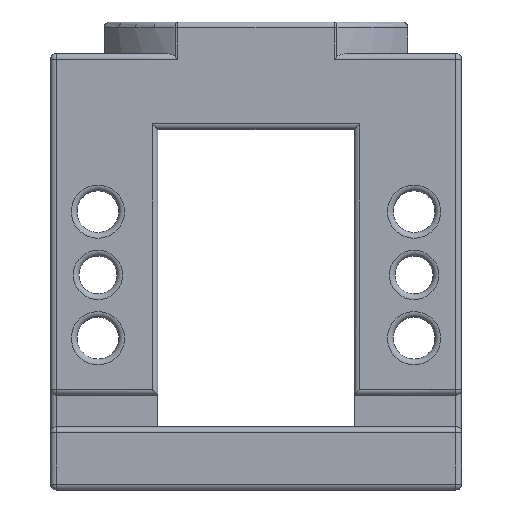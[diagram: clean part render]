
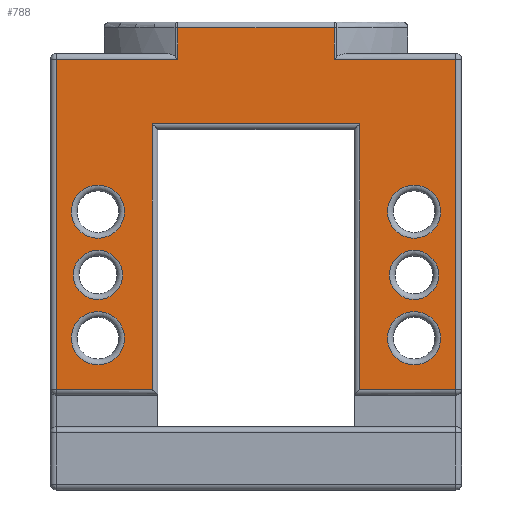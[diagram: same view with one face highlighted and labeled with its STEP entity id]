
A CAD part, front view. The second image highlights one B-rep face of the part: STEP entity #788.
In plain terms, the highlighted planar face has unit normal (0, -1, 0).
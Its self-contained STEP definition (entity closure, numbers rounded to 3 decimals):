
#564=CIRCLE('',#4937,3.9);
#565=CIRCLE('',#4939,3.9);
#567=CIRCLE('',#4942,4.2);
#569=CIRCLE('',#4945,4.2);
#571=CIRCLE('',#4948,4.2);
#573=CIRCLE('',#4951,4.2);
#788=ADVANCED_FACE('',(#1798,#1799,#1800,#1801,#1802,#1803,#1804),#1030,
 .F.);
#1030=PLANE('',#5082);
#1203=LINE('',#7555,#1458);
#1204=LINE('',#7558,#1459);
#1205=LINE('',#7560,#1460);
#1206=LINE('',#7562,#1461);
#1207=LINE('',#7564,#1462);
#1208=LINE('',#7566,#1463);
#1209=LINE('',#7568,#1464);
#1210=LINE('',#7570,#1465);
#1211=LINE('',#7572,#1466);
#1212=LINE('',#7574,#1467);
#1213=LINE('',#7576,#1468);
#1214=LINE('',#7578,#1469);
#1458=VECTOR('',#5736,1.);
#1459=VECTOR('',#5737,1.);
#1460=VECTOR('',#5738,1.);
#1461=VECTOR('',#5739,1.);
#1462=VECTOR('',#5740,1.);
#1463=VECTOR('',#5741,1.);
#1464=VECTOR('',#5742,1.);
#1465=VECTOR('',#5743,1.);
#1466=VECTOR('',#5744,1.);
#1467=VECTOR('',#5745,1.);
#1468=VECTOR('',#5746,1.);
#1469=VECTOR('',#5747,1.);
#1798=FACE_BOUND('',#1962,.T.);
#1799=FACE_BOUND('',#1963,.T.);
#1800=FACE_BOUND('',#1964,.T.);
#1801=FACE_BOUND('',#1965,.T.);
#1802=FACE_BOUND('',#1966,.T.);
#1803=FACE_BOUND('',#1967,.T.);
#1804=FACE_BOUND('',#1968,.T.);
#1962=EDGE_LOOP('',(#2544,#2545,#2546,#2547,#2548,#2549,#2550,#2551,#2552,
#2553,#2554,#2555));
#1963=EDGE_LOOP('',(#2556));
#1964=EDGE_LOOP('',(#2557));
#1965=EDGE_LOOP('',(#2558));
#1966=EDGE_LOOP('',(#2559));
#1967=EDGE_LOOP('',(#2560));
#1968=EDGE_LOOP('',(#2561));
#2544=ORIENTED_EDGE('',*,*,#4280,.T.);
#2545=ORIENTED_EDGE('',*,*,#4281,.T.);
#2546=ORIENTED_EDGE('',*,*,#4282,.T.);
#2547=ORIENTED_EDGE('',*,*,#4283,.T.);
#2548=ORIENTED_EDGE('',*,*,#4284,.T.);
#2549=ORIENTED_EDGE('',*,*,#4285,.T.);
#2550=ORIENTED_EDGE('',*,*,#4286,.T.);
#2551=ORIENTED_EDGE('',*,*,#4287,.T.);
#2552=ORIENTED_EDGE('',*,*,#4288,.T.);
#2553=ORIENTED_EDGE('',*,*,#4289,.T.);
#2554=ORIENTED_EDGE('',*,*,#4290,.T.);
#2555=ORIENTED_EDGE('',*,*,#4291,.T.);
#2556=ORIENTED_EDGE('',*,*,#4117,.T.);
#2557=ORIENTED_EDGE('',*,*,#4115,.T.);
#2558=ORIENTED_EDGE('',*,*,#4113,.T.);
#2559=ORIENTED_EDGE('',*,*,#4111,.T.);
#2560=ORIENTED_EDGE('',*,*,#4109,.T.);
#2561=ORIENTED_EDGE('',*,*,#4108,.T.);
#3662=VERTEX_POINT('',#7040);
#3663=VERTEX_POINT('',#7043);
#3665=VERTEX_POINT('',#7048);
#3667=VERTEX_POINT('',#7053);
#3669=VERTEX_POINT('',#7058);
#3671=VERTEX_POINT('',#7063);
#3829=VERTEX_POINT('',#7556);
#3830=VERTEX_POINT('',#7557);
#3831=VERTEX_POINT('',#7559);
#3832=VERTEX_POINT('',#7561);
#3833=VERTEX_POINT('',#7563);
#3834=VERTEX_POINT('',#7565);
#3835=VERTEX_POINT('',#7567);
#3836=VERTEX_POINT('',#7569);
#3837=VERTEX_POINT('',#7571);
#3838=VERTEX_POINT('',#7573);
#3839=VERTEX_POINT('',#7575);
#3840=VERTEX_POINT('',#7577);
#4108=EDGE_CURVE('',#3662,#3662,#564,.T.);
#4109=EDGE_CURVE('',#3663,#3663,#565,.T.);
#4111=EDGE_CURVE('',#3665,#3665,#567,.T.);
#4113=EDGE_CURVE('',#3667,#3667,#569,.T.);
#4115=EDGE_CURVE('',#3669,#3669,#571,.T.);
#4117=EDGE_CURVE('',#3671,#3671,#573,.T.);
#4280=EDGE_CURVE('',#3829,#3830,#1203,.T.);
#4281=EDGE_CURVE('',#3830,#3831,#1204,.T.);
#4282=EDGE_CURVE('',#3831,#3832,#1205,.T.);
#4283=EDGE_CURVE('',#3832,#3833,#1206,.T.);
#4284=EDGE_CURVE('',#3833,#3834,#1207,.T.);
#4285=EDGE_CURVE('',#3834,#3835,#1208,.T.);
#4286=EDGE_CURVE('',#3835,#3836,#1209,.T.);
#4287=EDGE_CURVE('',#3836,#3837,#1210,.T.);
#4288=EDGE_CURVE('',#3837,#3838,#1211,.T.);
#4289=EDGE_CURVE('',#3838,#3839,#1212,.T.);
#4290=EDGE_CURVE('',#3839,#3840,#1213,.T.);
#4291=EDGE_CURVE('',#3840,#3829,#1214,.T.);
#4937=AXIS2_PLACEMENT_3D('',#7039,#5376,#5377);
#4939=AXIS2_PLACEMENT_3D('',#7042,#5380,#5381);
#4942=AXIS2_PLACEMENT_3D('',#7047,#5386,#5387);
#4945=AXIS2_PLACEMENT_3D('',#7052,#5392,#5393);
#4948=AXIS2_PLACEMENT_3D('',#7057,#5398,#5399);
#4951=AXIS2_PLACEMENT_3D('',#7062,#5404,#5405);
#5082=AXIS2_PLACEMENT_3D('',#7579,#5748,#5749);
#5376=DIRECTION('',(0.,1.,0.));
#5377=DIRECTION('',(-1.,0.,0.));
#5380=DIRECTION('',(0.,1.,0.));
#5381=DIRECTION('',(-1.,0.,0.));
#5386=DIRECTION('',(0.,1.,0.));
#5387=DIRECTION('',(-1.,0.,0.));
#5392=DIRECTION('',(0.,1.,0.));
#5393=DIRECTION('',(-1.,0.,0.));
#5398=DIRECTION('',(0.,1.,0.));
#5399=DIRECTION('',(-1.,0.,0.));
#5404=DIRECTION('',(0.,1.,0.));
#5405=DIRECTION('',(-1.,0.,0.));
#5736=DIRECTION('',(0.,0.,1.));
#5737=DIRECTION('',(-1.,0.,0.));
#5738=DIRECTION('',(0.,0.,-1.));
#5739=DIRECTION('',(-1.,0.,0.));
#5740=DIRECTION('',(0.,0.,-1.));
#5741=DIRECTION('',(1.,0.,0.));
#5742=DIRECTION('',(0.,0.,1.));
#5743=DIRECTION('',(1.,0.,0.));
#5744=DIRECTION('',(0.,0.,-1.));
#5745=DIRECTION('',(1.,0.,0.));
#5746=DIRECTION('',(0.,0.,1.));
#5747=DIRECTION('',(-1.,0.,0.));
#5748=DIRECTION('',(0.,1.,0.));
#5749=DIRECTION('',(1.,0.,0.));
#7039=CARTESIAN_POINT('',(-25.,-25.,29.));
#7040=CARTESIAN_POINT('',(-28.9,-25.,29.));
#7042=CARTESIAN_POINT('',(25.,-25.,29.));
#7043=CARTESIAN_POINT('',(21.1,-25.,29.));
#7047=CARTESIAN_POINT('',(-25.,-25.,19.));
#7048=CARTESIAN_POINT('',(-29.2,-25.,19.));
#7052=CARTESIAN_POINT('',(25.,-25.,19.));
#7053=CARTESIAN_POINT('',(20.8,-25.,19.));
#7057=CARTESIAN_POINT('',(25.,-25.,39.));
#7058=CARTESIAN_POINT('',(20.8,-25.,39.));
#7062=CARTESIAN_POINT('',(-25.,-25.,39.));
#7063=CARTESIAN_POINT('',(-29.2,-25.,39.));
#7555=CARTESIAN_POINT('',(12.394,-25.,69.));
#7556=CARTESIAN_POINT('',(12.394,-25.,63.1));
#7557=CARTESIAN_POINT('',(12.394,-25.,68.1));
#7558=CARTESIAN_POINT('',(32.5,-25.,68.1));
#7559=CARTESIAN_POINT('',(-12.394,-25.,68.1));
#7560=CARTESIAN_POINT('',(-12.394,-25.,64.));
#7561=CARTESIAN_POINT('',(-12.394,-25.,63.1));
#7562=CARTESIAN_POINT('',(-32.5,-25.,63.1));
#7563=CARTESIAN_POINT('',(-31.6,-25.,63.1));
#7564=CARTESIAN_POINT('',(-31.6,-25.,10.));
#7565=CARTESIAN_POINT('',(-31.6,-25.,10.9));
#7566=CARTESIAN_POINT('',(32.5,-25.,10.9));
#7567=CARTESIAN_POINT('',(-16.4,-25.,10.9));
#7568=CARTESIAN_POINT('',(-16.4,-25.,64.));
#7569=CARTESIAN_POINT('',(-16.4,-25.,52.9));
#7570=CARTESIAN_POINT('',(32.5,-25.,52.9));
#7571=CARTESIAN_POINT('',(16.4,-25.,52.9));
#7572=CARTESIAN_POINT('',(16.4,-25.,10.));
#7573=CARTESIAN_POINT('',(16.4,-25.,10.9));
#7574=CARTESIAN_POINT('',(32.5,-25.,10.9));
#7575=CARTESIAN_POINT('',(31.6,-25.,10.9));
#7576=CARTESIAN_POINT('',(31.6,-25.,64.));
#7577=CARTESIAN_POINT('',(31.6,-25.,63.1));
#7578=CARTESIAN_POINT('',(12.61,-25.,63.1));
#7579=CARTESIAN_POINT('',(32.5,-25.,64.));
